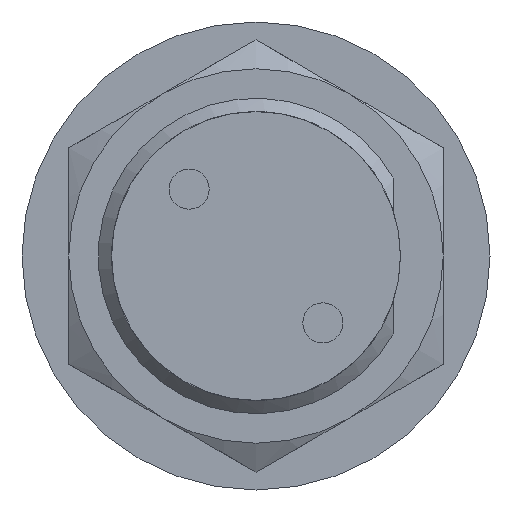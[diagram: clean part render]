
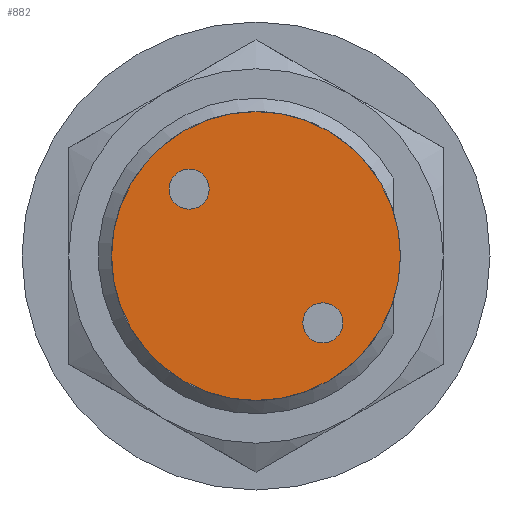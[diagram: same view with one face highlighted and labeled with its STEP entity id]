
A CAD part, front view. The second image highlights one B-rep face of the part: STEP entity #882.
In plain terms, the highlighted planar face has unit normal (0, -1, 0).
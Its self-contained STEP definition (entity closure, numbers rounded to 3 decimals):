
#11=CARTESIAN_POINT('',(-2.5,-5.,2.5));
#12=DIRECTION('',(0.,-1.,0.));
#13=DIRECTION('',(1.,0.,0.));
#14=AXIS2_PLACEMENT_3D('',#11,#12,#13);
#20=CARTESIAN_POINT('',(0.,-5.,0.));
#21=DIRECTION('',(0.,1.,0.));
#22=DIRECTION('',(0.,0.,-1.));
#23=AXIS2_PLACEMENT_3D('',#20,#21,#22);
#25=CARTESIAN_POINT('',(0.,-5.,0.));
#26=DIRECTION('',(0.,1.,0.));
#27=DIRECTION('',(0.,0.,1.));
#28=AXIS2_PLACEMENT_3D('',#25,#26,#27);
#672=CARTESIAN_POINT('',(-2.5,-5.,2.5));
#673=DIRECTION('',(0.,-1.,0.));
#674=DIRECTION('',(-1.,0.,0.));
#675=AXIS2_PLACEMENT_3D('',#672,#673,#674);
#681=CARTESIAN_POINT('',(2.5,-5.,-2.5));
#682=DIRECTION('',(0.,1.,0.));
#683=DIRECTION('',(1.,0.,0.));
#684=AXIS2_PLACEMENT_3D('',#681,#682,#683);
#690=CARTESIAN_POINT('',(2.5,-5.,-2.5));
#691=DIRECTION('',(0.,1.,0.));
#692=DIRECTION('',(-1.,0.,0.));
#693=AXIS2_PLACEMENT_3D('',#690,#691,#692);
#741=CARTESIAN_POINT('',(0.,-5.,-5.4));
#742=CARTESIAN_POINT('',(0.,-5.,5.4));
#743=VERTEX_POINT('',#741);
#744=VERTEX_POINT('',#742);
#817=CARTESIAN_POINT('',(3.25,-5.,-2.5));
#818=CARTESIAN_POINT('',(1.75,-5.,-2.5));
#819=VERTEX_POINT('',#817);
#820=VERTEX_POINT('',#818);
#821=CARTESIAN_POINT('',(-1.75,-5.,2.5));
#822=CARTESIAN_POINT('',(-3.25,-5.,2.5));
#823=VERTEX_POINT('',#821);
#824=VERTEX_POINT('',#822);
#860=CARTESIAN_POINT('',(0.,-5.,0.));
#861=DIRECTION('',(0.,1.,0.));
#862=DIRECTION('',(0.,0.,-1.));
#863=AXIS2_PLACEMENT_3D('',#860,#861,#862);
#864=PLANE('',#863);
#866=ORIENTED_EDGE('',*,*,#865,.T.);
#868=ORIENTED_EDGE('',*,*,#867,.T.);
#869=EDGE_LOOP('',(#866,#868));
#870=FACE_OUTER_BOUND('',#869,.F.);
#871=ORIENTED_EDGE('',*,*,#850,.T.);
#873=ORIENTED_EDGE('',*,*,#872,.T.);
#874=EDGE_LOOP('',(#871,#873));
#875=FACE_BOUND('',#874,.F.);
#877=ORIENTED_EDGE('',*,*,#876,.F.);
#879=ORIENTED_EDGE('',*,*,#878,.F.);
#880=EDGE_LOOP('',(#877,#879));
#881=FACE_BOUND('',#880,.F.);
#882=ADVANCED_FACE('',(#870,#875,#881),#864,.F.);
#15=CIRCLE('',#14,0.75);
#24=CIRCLE('',#23,5.4);
#29=CIRCLE('',#28,5.4);
#676=CIRCLE('',#675,0.75);
#685=CIRCLE('',#684,0.75);
#694=CIRCLE('',#693,0.75);
#850=EDGE_CURVE('',#823,#824,#15,.T.);
#865=EDGE_CURVE('',#743,#744,#24,.T.);
#867=EDGE_CURVE('',#744,#743,#29,.T.);
#872=EDGE_CURVE('',#824,#823,#676,.T.);
#876=EDGE_CURVE('',#819,#820,#685,.T.);
#878=EDGE_CURVE('',#820,#819,#694,.T.);
